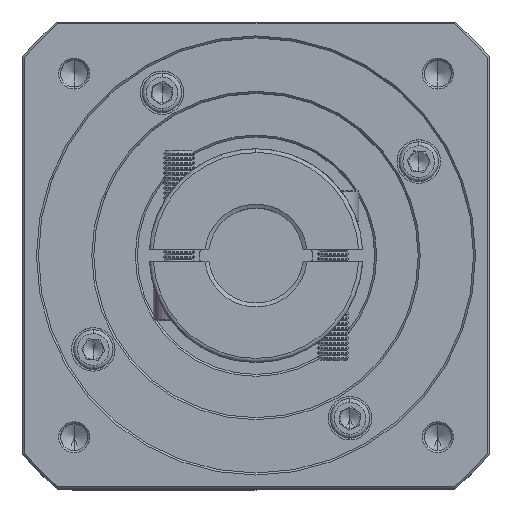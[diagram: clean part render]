
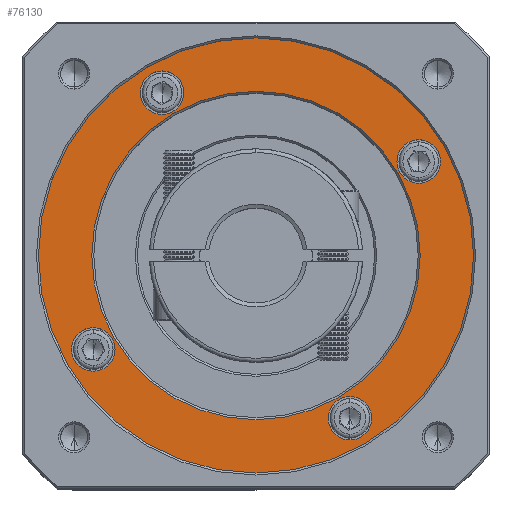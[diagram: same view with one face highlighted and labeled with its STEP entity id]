
A CAD part, top view. The second image highlights one B-rep face of the part: STEP entity #76130.
In plain terms, the highlighted planar face has unit normal (0, 0, 1).
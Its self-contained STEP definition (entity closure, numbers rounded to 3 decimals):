
#2862 = CARTESIAN_POINT ( 'NONE',  ( 28.932, 103.11, 0.694 ) ) ;
#3288 = VERTEX_POINT ( 'NONE', #103514 ) ;
#3616 = VERTEX_POINT ( 'NONE', #90521 ) ;
#6039 = DIRECTION ( 'NONE',  ( 0., 0., -1. ) ) ;
#6477 = DIRECTION ( 'NONE',  ( 0., 1., 0. ) ) ;
#7336 = ORIENTED_EDGE ( 'NONE', *, *, #121750, .T. ) ;
#9172 = DIRECTION ( 'NONE',  ( 0., 0., -1. ) ) ;
#9271 = DIRECTION ( 'NONE',  ( 0., 0., -1. ) ) ;
#9698 = DIRECTION ( 'NONE',  ( 0., 1., 0. ) ) ;
#12306 = DIRECTION ( 'NONE',  ( 0., 1., 0. ) ) ;
#13026 = CIRCLE ( 'NONE', #71197, 5.5 ) ;
#13071 = EDGE_CURVE ( 'NONE', #31178, #67544, #31005, .T. ) ;
#14158 = CARTESIAN_POINT ( 'NONE',  ( 76.432, 20.837, 0.694 ) ) ;
#15441 = DIRECTION ( 'NONE',  ( 1., 0., 0. ) ) ;
#15807 = FACE_BOUND ( 'NONE', #109593, .T. ) ;
#16153 = CARTESIAN_POINT ( 'NONE',  ( 93.818, 91.223, 0.694 ) ) ;
#16340 = CARTESIAN_POINT ( 'NONE',  ( 93.818, 80.223, 0.694 ) ) ;
#16727 = VERTEX_POINT ( 'NONE', #44549 ) ;
#17031 = CARTESIAN_POINT ( 'NONE',  ( 11.546, 38.223, 0.694 ) ) ;
#19041 = CARTESIAN_POINT ( 'NONE',  ( 11.546, 38.223, 0.694 ) ) ;
#20745 = DIRECTION ( 'NONE',  ( 0., 1., 0. ) ) ;
#21248 = CARTESIAN_POINT ( 'NONE',  ( 28.932, 108.61, 0.694 ) ) ;
#21689 = VERTEX_POINT ( 'NONE', #101497 ) ;
#22764 = CIRCLE ( 'NONE', #44743, 5.5 ) ;
#23100 = AXIS2_PLACEMENT_3D ( 'NONE', #14158, #92817, #101921 ) ;
#25782 = CARTESIAN_POINT ( 'NONE',  ( 93.818, 85.723, 0.694 ) ) ;
#26150 = CARTESIAN_POINT ( 'NONE',  ( 52.682, 61.973, 0.694 ) ) ;
#29275 = DIRECTION ( 'NONE',  ( 0., 0., 1. ) ) ;
#30943 = DIRECTION ( 'NONE',  ( 0., 1., 0. ) ) ;
#31005 = CIRCLE ( 'NONE', #48294, 55. ) ;
#31178 = VERTEX_POINT ( 'NONE', #53066 ) ;
#31889 = VERTEX_POINT ( 'NONE', #16153 ) ;
#33090 = AXIS2_PLACEMENT_3D ( 'NONE', #66363, #115579, #105389 ) ;
#33095 = VERTEX_POINT ( 'NONE', #21248 ) ;
#36088 = EDGE_CURVE ( 'NONE', #97534, #31889, #67516, .T. ) ;
#36299 = ORIENTED_EDGE ( 'NONE', *, *, #91156, .T. ) ;
#36988 = CARTESIAN_POINT ( 'NONE',  ( 76.432, 15.337, 0.694 ) ) ;
#39287 = ORIENTED_EDGE ( 'NONE', *, *, #82012, .T. ) ;
#41034 = EDGE_LOOP ( 'NONE', ( #70930, #85995 ) ) ;
#41595 = EDGE_LOOP ( 'NONE', ( #44306, #103420 ) ) ;
#44306 = ORIENTED_EDGE ( 'NONE', *, *, #104713, .T. ) ;
#44422 = AXIS2_PLACEMENT_3D ( 'NONE', #19041, #9172, #58840 ) ;
#44549 = CARTESIAN_POINT ( 'NONE',  ( 76.432, 26.337, 0.694 ) ) ;
#44743 = AXIS2_PLACEMENT_3D ( 'NONE', #77980, #97719, #30943 ) ;
#44869 = DIRECTION ( 'NONE',  ( 0., 0., -1. ) ) ;
#45491 = DIRECTION ( 'NONE',  ( 1., 0., 0. ) ) ;
#47162 = CIRCLE ( 'NONE', #23100, 5.5 ) ;
#48169 = FACE_BOUND ( 'NONE', #126540, .T. ) ;
#48294 = AXIS2_PLACEMENT_3D ( 'NONE', #79755, #60112, #20745 ) ;
#48515 = CIRCLE ( 'NONE', #96630, 41.5 ) ;
#51397 = AXIS2_PLACEMENT_3D ( 'NONE', #17031, #44869, #104369 ) ;
#52531 = CARTESIAN_POINT ( 'NONE',  ( 52.682, 61.973, 0.694 ) ) ;
#53066 = CARTESIAN_POINT ( 'NONE',  ( 52.682, 6.973, 0.694 ) ) ;
#53959 = ORIENTED_EDGE ( 'NONE', *, *, #102677, .T. ) ;
#58211 = CIRCLE ( 'NONE', #51397, 5.5 ) ;
#58840 = DIRECTION ( 'NONE',  ( 0., 1., 0. ) ) ;
#59058 = AXIS2_PLACEMENT_3D ( 'NONE', #52531, #109485, #12306 ) ;
#60112 = DIRECTION ( 'NONE',  ( 0., 0., 1. ) ) ;
#61781 = VERTEX_POINT ( 'NONE', #125114 ) ;
#63860 = AXIS2_PLACEMENT_3D ( 'NONE', #25782, #6039, #6477 ) ;
#64924 = CIRCLE ( 'NONE', #90648, 55. ) ;
#66363 = CARTESIAN_POINT ( 'NONE',  ( 28.932, 103.11, 0.694 ) ) ;
#66886 = CARTESIAN_POINT ( 'NONE',  ( 52.682, 61.973, 0.694 ) ) ;
#67516 = CIRCLE ( 'NONE', #102745, 5.5 ) ;
#67544 = VERTEX_POINT ( 'NONE', #115911 ) ;
#70930 = ORIENTED_EDGE ( 'NONE', *, *, #87403, .T. ) ;
#71197 = AXIS2_PLACEMENT_3D ( 'NONE', #2862, #118861, #119283 ) ;
#74072 = FACE_BOUND ( 'NONE', #41595, .T. ) ;
#76130 = ADVANCED_FACE ( 'NONE', ( #106370, #74072, #15807, #126157, #116875, #48169 ), #90595, .T. ) ;
#77264 = EDGE_CURVE ( 'NONE', #78857, #3288, #98805, .T. ) ;
#77980 = CARTESIAN_POINT ( 'NONE',  ( 76.432, 20.837, 0.694 ) ) ;
#77991 = CARTESIAN_POINT ( 'NONE',  ( 52.682, 61.973, 0.694 ) ) ;
#78857 = VERTEX_POINT ( 'NONE', #113607 ) ;
#79755 = CARTESIAN_POINT ( 'NONE',  ( 52.682, 61.973, 0.694 ) ) ;
#81699 = ORIENTED_EDGE ( 'NONE', *, *, #77264, .T. ) ;
#82012 = EDGE_CURVE ( 'NONE', #100199, #16727, #47162, .T. ) ;
#83954 = ORIENTED_EDGE ( 'NONE', *, *, #98231, .T. ) ;
#84982 = EDGE_CURVE ( 'NONE', #3288, #78857, #58211, .T. ) ;
#85615 = ORIENTED_EDGE ( 'NONE', *, *, #13071, .T. ) ;
#85995 = ORIENTED_EDGE ( 'NONE', *, *, #36088, .T. ) ;
#87129 = CARTESIAN_POINT ( 'NONE',  ( 93.818, 85.723, 0.694 ) ) ;
#87403 = EDGE_CURVE ( 'NONE', #31889, #97534, #103115, .T. ) ;
#88250 = DIRECTION ( 'NONE',  ( 0., 1., 0. ) ) ;
#90521 = CARTESIAN_POINT ( 'NONE',  ( 94.182, 61.973, 0.694 ) ) ;
#90595 = PLANE ( 'NONE',  #59058 ) ;
#90648 = AXIS2_PLACEMENT_3D ( 'NONE', #77991, #29275, #88250 ) ;
#90974 = CIRCLE ( 'NONE', #33090, 5.5 ) ;
#91156 = EDGE_CURVE ( 'NONE', #67544, #31178, #64924, .T. ) ;
#92817 = DIRECTION ( 'NONE',  ( 0., 0., -1. ) ) ;
#96630 = AXIS2_PLACEMENT_3D ( 'NONE', #66886, #116978, #45491 ) ;
#96812 = CIRCLE ( 'NONE', #112184, 41.5 ) ;
#97534 = VERTEX_POINT ( 'NONE', #16340 ) ;
#97719 = DIRECTION ( 'NONE',  ( 0., 0., -1. ) ) ;
#98231 = EDGE_CURVE ( 'NONE', #33095, #21689, #13026, .T. ) ;
#98805 = CIRCLE ( 'NONE', #44422, 5.5 ) ;
#100199 = VERTEX_POINT ( 'NONE', #36988 ) ;
#101497 = CARTESIAN_POINT ( 'NONE',  ( 28.932, 97.61, 0.694 ) ) ;
#101556 = EDGE_LOOP ( 'NONE', ( #81699, #119382 ) ) ;
#101921 = DIRECTION ( 'NONE',  ( 0., 1., 0. ) ) ;
#102677 = EDGE_CURVE ( 'NONE', #16727, #100199, #22764, .T. ) ;
#102745 = AXIS2_PLACEMENT_3D ( 'NONE', #87129, #9271, #9698 ) ;
#103115 = CIRCLE ( 'NONE', #63860, 5.5 ) ;
#103420 = ORIENTED_EDGE ( 'NONE', *, *, #124836, .T. ) ;
#103514 = CARTESIAN_POINT ( 'NONE',  ( 11.546, 32.723, 0.694 ) ) ;
#104053 = DIRECTION ( 'NONE',  ( 0., 0., -1. ) ) ;
#104369 = DIRECTION ( 'NONE',  ( 0., 1., 0. ) ) ;
#104633 = EDGE_LOOP ( 'NONE', ( #36299, #85615 ) ) ;
#104713 = EDGE_CURVE ( 'NONE', #3616, #61781, #96812, .T. ) ;
#105389 = DIRECTION ( 'NONE',  ( 0., 1., 0. ) ) ;
#106370 = FACE_OUTER_BOUND ( 'NONE', #104633, .T. ) ;
#109485 = DIRECTION ( 'NONE',  ( 0., 0., 1. ) ) ;
#109593 = EDGE_LOOP ( 'NONE', ( #83954, #7336 ) ) ;
#112184 = AXIS2_PLACEMENT_3D ( 'NONE', #26150, #104053, #15441 ) ;
#113607 = CARTESIAN_POINT ( 'NONE',  ( 11.546, 43.723, 0.694 ) ) ;
#115579 = DIRECTION ( 'NONE',  ( 0., 0., -1. ) ) ;
#115911 = CARTESIAN_POINT ( 'NONE',  ( 52.682, 116.973, 0.694 ) ) ;
#116875 = FACE_BOUND ( 'NONE', #101556, .T. ) ;
#116978 = DIRECTION ( 'NONE',  ( 0., 0., -1. ) ) ;
#118861 = DIRECTION ( 'NONE',  ( 0., 0., -1. ) ) ;
#119283 = DIRECTION ( 'NONE',  ( 0., 1., 0. ) ) ;
#119382 = ORIENTED_EDGE ( 'NONE', *, *, #84982, .T. ) ;
#121750 = EDGE_CURVE ( 'NONE', #21689, #33095, #90974, .T. ) ;
#124836 = EDGE_CURVE ( 'NONE', #61781, #3616, #48515, .T. ) ;
#125114 = CARTESIAN_POINT ( 'NONE',  ( 11.182, 61.973, 0.694 ) ) ;
#126157 = FACE_BOUND ( 'NONE', #41034, .T. ) ;
#126540 = EDGE_LOOP ( 'NONE', ( #53959, #39287 ) ) ;
